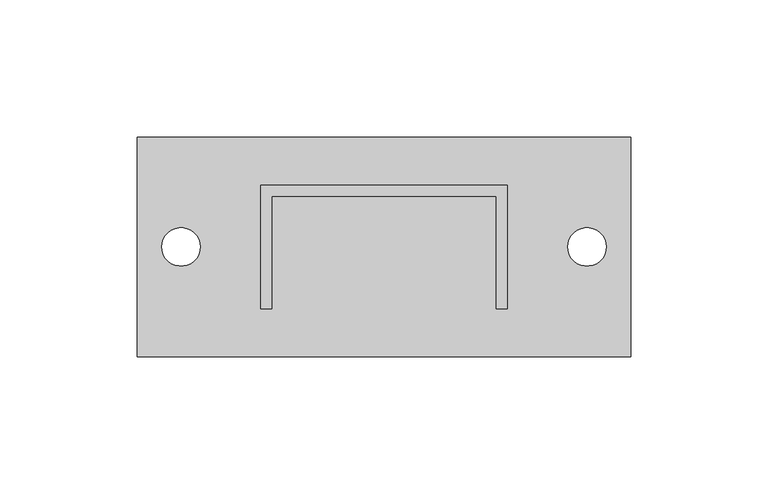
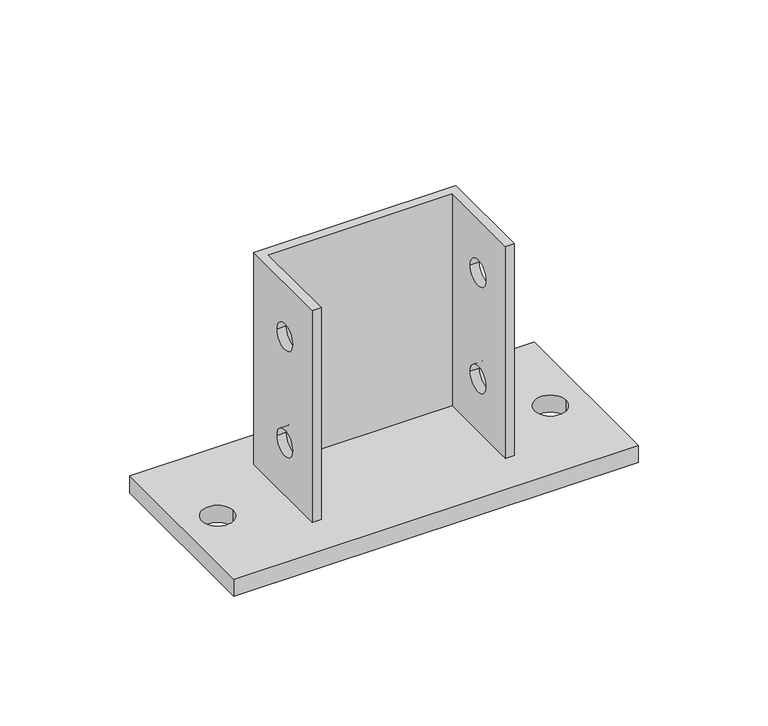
"""IFC4 building model written with IfcOpenShell, lengths in millimetres: proxy geometry, K82_Tape head-Basorfix : Basorfix K82 GC70."""

from ifc_helpers import new_model, si_unit, point, frame, frame_2d, origin, origin_with_axes, place, context, project, spatial, polyline, circle_curve, trimmed, segment, composite_curve, outline, extrude, source, transform, mapped, element, save
from ifc_brep_helpers import plane_surface, revolved_surface, advanced_brep


def generic_models_69fa481b(model_context):
    return source(origin(), model_context, "Body", "SolidModel", [
        extrude(outline(polyline([(90.0, 40.0), (90.0, -40.0), (-90.0, -40.0), (-90.0, 40.0), (90.0, 40.0)]), holes=[composite_curve([segment(trimmed(circle_curve(frame_2d((-74.0, 0.0)), 7.0), [point((-81.0, 0.0))], [point((-67.0, 0.0))], True, "CARTESIAN"), True, "CONTINUOUS"), segment(trimmed(circle_curve(frame_2d((-74.0, 0.0)), 7.0), [point((-67.0, 0.0))], [point((-81.0, 0.0))], True, "CARTESIAN"), True, "CONTINUOUS")], self_intersect=False), composite_curve([segment(trimmed(circle_curve(frame_2d((74.0, 0.0)), 7.0), [point((67.0, 0.0))], [point((81.0, 0.0))], True, "CARTESIAN"), True, "CONTINUOUS"), segment(trimmed(circle_curve(frame_2d((74.0, 0.0)), 7.0), [point((81.0, 0.0))], [point((67.0, 0.0))], True, "CARTESIAN"), True, "CONTINUOUS")], self_intersect=False)]), origin_with_axes(), (0.0, 0.0, 1.0), 8.0),
        advanced_brep(
        [(-41.0, -22.5, 108.0), (-41.0, 18.5, 108.0), (41.0, 18.5, 108.0), (41.0, -22.5, 108.0), (45.0, -22.5, 108.0), (45.0, 22.5, 108.0), (-45.0, 22.5, 108.0), (-45.0, -22.5, 108.0), (-41.0, -22.5, 8.0), (-45.0, -22.5, 8.0), (-45.0, 22.5, 8.0), (45.0, 22.5, 8.0), (45.0, -22.5, 8.0), (41.0, -22.5, 8.0), (41.0, 18.5, 8.0), (-41.0, 18.5, 8.0), (-41.0, 4.5, 83.0), (-41.0, -7.5, 83.0), (-41.0, 4.5, 33.0), (-41.0, -7.5, 33.0), (41.0, -7.5, 83.0), (41.0, 4.5, 83.0), (41.0, -7.5, 33.0), (41.0, 4.5, 33.0), (45.0, 4.5, 83.0), (45.0, -7.5, 83.0), (45.0, 4.5, 33.0), (45.0, -7.5, 33.0), (-45.0, -7.5, 83.0), (-45.0, 4.5, 83.0), (-45.0, -7.5, 33.0), (-45.0, 4.5, 33.0)],
        [
            (0, 1),
            (1, 2),
            (2, 3),
            (3, 4),
            (4, 5),
            (5, 6),
            (6, 7),
            (7, 0),
            (8, 9),
            (9, 10),
            (10, 11),
            (11, 12),
            (12, 13),
            (13, 14),
            (14, 15),
            (15, 8),
            (0, 8),
            (15, 1),
            (16, 17, circle_curve(frame((-41.0, -1.5, 83.0), z_axis=(-1.0, 0.0, 0.0), x_axis=(0.0, 1.0, 0.0)), 6.0)),
            (17, 16, circle_curve(frame((-41.0, -1.5, 83.0), z_axis=(-1.0, 0.0, 0.0), x_axis=(0.0, 1.0, 0.0)), 6.0)),
            (18, 19, circle_curve(frame((-41.0, -1.5, 33.0), z_axis=(-1.0, 0.0, 0.0), x_axis=(0.0, 1.0, 0.0)), 6.0)),
            (19, 18, circle_curve(frame((-41.0, -1.5, 33.0), z_axis=(-1.0, 0.0, 0.0), x_axis=(0.0, 1.0, 0.0)), 6.0)),
            (14, 2),
            (13, 3),
            (20, 21, circle_curve(frame((41.0, -1.5, 83.0), z_axis=(1.0, 0.0, 0.0), x_axis=(0.0, 1.0, 0.0)), 6.0)),
            (21, 20, circle_curve(frame((41.0, -1.5, 83.0), z_axis=(1.0, 0.0, 0.0), x_axis=(0.0, 1.0, 0.0)), 6.0)),
            (22, 23, circle_curve(frame((41.0, -1.5, 33.0), z_axis=(1.0, 0.0, 0.0), x_axis=(0.0, 1.0, 0.0)), 6.0)),
            (23, 22, circle_curve(frame((41.0, -1.5, 33.0), z_axis=(1.0, 0.0, 0.0), x_axis=(0.0, 1.0, 0.0)), 6.0)),
            (12, 4),
            (11, 5),
            (24, 25, circle_curve(frame((45.0, -1.5, 83.0), z_axis=(-1.0, 0.0, 0.0), x_axis=(0.0, 1.0, 0.0)), 6.0)),
            (25, 24, circle_curve(frame((45.0, -1.5, 83.0), z_axis=(-1.0, 0.0, 0.0), x_axis=(0.0, 1.0, 0.0)), 6.0)),
            (26, 27, circle_curve(frame((45.0, -1.5, 33.0), z_axis=(-1.0, 0.0, 0.0), x_axis=(0.0, 1.0, 0.0)), 6.0)),
            (27, 26, circle_curve(frame((45.0, -1.5, 33.0), z_axis=(-1.0, 0.0, 0.0), x_axis=(0.0, 1.0, 0.0)), 6.0)),
            (10, 6),
            (9, 7),
            (28, 29, circle_curve(frame((-45.0, -1.5, 83.0), z_axis=(1.0, 0.0, 0.0), x_axis=(0.0, 1.0, 0.0)), 6.0)),
            (29, 28, circle_curve(frame((-45.0, -1.5, 83.0), z_axis=(1.0, 0.0, 0.0), x_axis=(0.0, 1.0, 0.0)), 6.0)),
            (30, 31, circle_curve(frame((-45.0, -1.5, 33.0), z_axis=(1.0, 0.0, 0.0), x_axis=(0.0, 1.0, 0.0)), 6.0)),
            (31, 30, circle_curve(frame((-45.0, -1.5, 33.0), z_axis=(1.0, 0.0, 0.0), x_axis=(0.0, 1.0, 0.0)), 6.0)),
            (28, 17),
            (16, 29),
            (20, 25),
            (24, 21),
            (30, 19),
            (18, 31),
            (22, 27),
            (26, 23),
        ],
        [
            plane_surface(frame((-41.0, -22.5, 108.0), z_axis=(0.0, 0.0, 1.0), x_axis=(0.0, 1.0, 0.0))),
            plane_surface(frame((-41.0, -22.5, 8.0), z_axis=(0.0, 0.0, -1.0), x_axis=(0.0, -1.0, 0.0))),
            plane_surface(frame((-41.0, -22.5, 108.0), z_axis=(1.0, 0.0, 0.0), x_axis=(0.0, 0.0, -1.0))),
            plane_surface(frame((-41.0, 18.5, 108.0), z_axis=(0.0, -1.0, 0.0), x_axis=(0.0, 0.0, -1.0))),
            plane_surface(frame((41.0, 18.5, 108.0), z_axis=(-1.0, 0.0, 0.0), x_axis=(0.0, 0.0, -1.0))),
            plane_surface(frame((41.0, -22.5, 108.0), z_axis=(0.0, -1.0, 0.0), x_axis=(0.0, 0.0, -1.0))),
            plane_surface(frame((45.0, -22.5, 108.0), z_axis=(1.0, 0.0, 0.0), x_axis=(0.0, 0.0, -1.0))),
            plane_surface(frame((45.0, 22.5, 108.0), z_axis=(0.0, 1.0, 0.0), x_axis=(0.0, 0.0, -1.0))),
            plane_surface(frame((-45.0, 22.5, 108.0), z_axis=(-1.0, 0.0, 0.0), x_axis=(0.0, 0.0, -1.0))),
            plane_surface(frame((-45.0, -22.5, 108.0), z_axis=(0.0, -1.0, 0.0), x_axis=(0.0, 0.0, -1.0))),
            revolved_surface(polyline([(-41.0, 4.5, 83.0), (-45.0, 4.5, 83.0)]), (-45.0, -1.5, 83.0), (1.0, 0.0, 0.0)),
            revolved_surface(polyline([(45.0, 4.5, 83.0), (41.0, 4.5, 83.0)]), (-45.0, -1.5, 83.0), (1.0, 0.0, 0.0)),
            revolved_surface(polyline([(-41.0, 4.5, 33.0), (-45.0, 4.5, 33.0)]), (0.0, -1.5, 33.0), (1.0, 0.0, 0.0)),
            revolved_surface(polyline([(45.0, 4.5, 33.0), (41.0, 4.5, 33.0)]), (0.0, -1.5, 33.0), (1.0, 0.0, 0.0)),
        ],
        [
            (0, [[1, 2, 3, 4, 5, 6, 7, 8]]),
            (1, [[9, 10, 11, 12, 13, 14, 15, 16]]),
            (2, [[-1, 17, -16, 18], [19, 20], [21, 22]]),
            (3, [[-2, -18, -15, 23]]),
            (4, [[-3, -23, -14, 24], [25, 26], [27, 28]]),
            (5, [[-4, -24, -13, 29]]),
            (6, [[-5, -29, -12, 30], [31, 32], [33, 34]]),
            (7, [[-6, -30, -11, 35]]),
            (8, [[-7, -35, -10, 36], [37, 38], [39, 40]]),
            (9, [[-8, -36, -9, -17]]),
            (10, [[41, -19, 42, -37]]),
            (11, [[43, -31, 44, -25]]),
            (10, [[-41, -38, -42, -20]]),
            (11, [[-43, -26, -44, -32]]),
            (12, [[45, -21, 46, -39]]),
            (13, [[47, -33, 48, -27]]),
            (12, [[-45, -40, -46, -22]]),
            (13, [[-47, -28, -48, -34]]),
        ],
    ),
    ])


if __name__ == "__main__":
    model = new_model("IFC4")
    model_context = context("Model", 3, world=origin())
    ifc_project = project(units=[si_unit("LENGTHUNIT", "METRE", prefix="MILLI")], contexts=[model_context])
    site = spatial("IfcSite", under=ifc_project)
    building = spatial("IfcBuilding", under=site)
    placement = place(None, origin())
    generic_models_shape = generic_models_69fa481b(model_context)
    element("IfcBuildingElementProxy", 1, Name="K82_Tape head-Basorfix : Basorfix K82 GC70", ObjectType="K82_Tape head-Basorfix : Basorfix K82 GC70", at=placement, inside=building, context=model_context, shape_type="MappedRepresentation", body=[
        mapped(generic_models_shape, transform((0.0, 0.0, 0.0), x_axis=(1.0, 0.0, 0.0), y_axis=(0.0, 1.0, 0.0), z_axis=(0.0, 0.0, 1.0))),
    ])
    save(model, "model.ifc")
